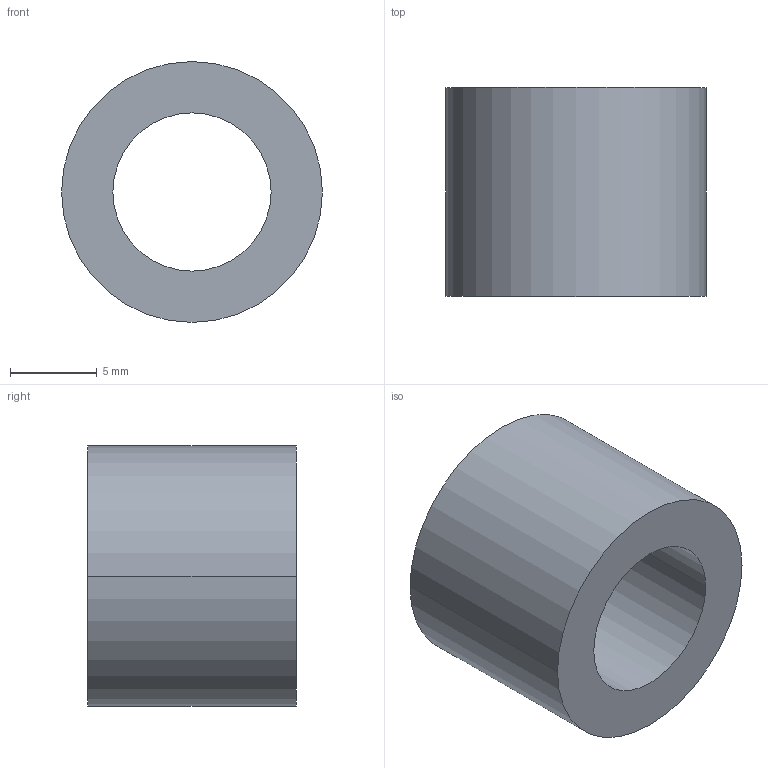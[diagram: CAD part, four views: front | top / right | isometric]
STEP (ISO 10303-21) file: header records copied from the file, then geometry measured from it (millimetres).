
FILE_DESCRIPTION (( 'STEP AP203' ), '1' );
FILE_NAME ('30800.WPP15E9.1.step', '2019-01-23T22:32:06', ( '' ), ( '' ), 'SwSTEP 2.0', 'SolidWorks 2017', '' );
FILE_SCHEMA (( 'CONFIG_CONTROL_DESIGN' ));
Length unit declared in the file: millimetre
Products named in the file (1): 30800.WPP15E9.1
Bounding box: 15 x 12 x 15 mm (x, y, z)
Volume: 1313.2 mm3; surface area: 1109.1 mm2
Topology: 1 solids, 1 shells, 8 faces, 16 edges, 10 vertices
Faces by surface type: cylinder 4, torus 2, plane 2
Entity records: 297 total; most frequent: DIRECTION 46, CARTESIAN_POINT 35, ORIENTED_EDGE 32, AXIS2_PLACEMENT_3D 21, EDGE_CURVE 16, CIRCLE 12, VERTEX_POINT 10, EDGE_LOOP 10
